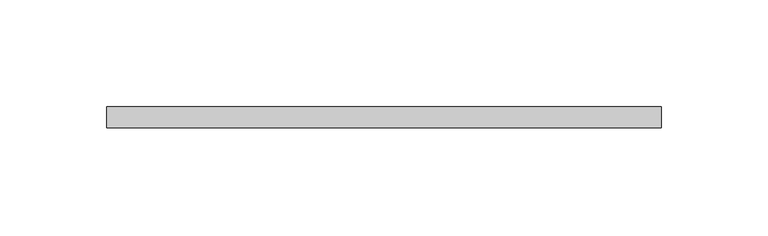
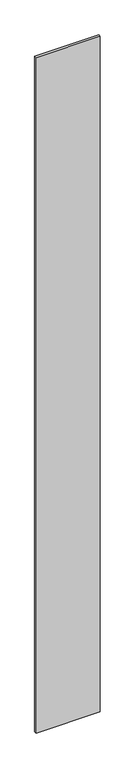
"""IFC4 building model written with IfcOpenShell, lengths in millimetres: plate geometry, システム パネル : 標準."""

from ifc_helpers import new_model, si_unit, origin, origin_with_axes, place, context, project, spatial, polyline, outline, extrude, source, transform, mapped, element, save


def plate_4066ba05(model_context):
    return source(origin(), model_context, "Body", "SweptSolid", [
        extrude(outline(polyline([(130.0, -5.0), (-130.0, -5.0), (-130.0, 5.0), (130.0, 5.0), (130.0, -5.0)])), origin_with_axes(), (0.0, 0.0, 1.0), 2895.0),
    ])


if __name__ == "__main__":
    model = new_model("IFC4")
    model_context = context("Model", 3, world=origin())
    ifc_project = project(units=[si_unit("LENGTHUNIT", "METRE", prefix="MILLI")], contexts=[model_context])
    site = spatial("IfcSite", under=ifc_project)
    building = spatial("IfcBuilding", under=site)
    placement = place(None, origin())
    plate_shape = plate_4066ba05(model_context)
    element("IfcPlate", 1, ObjectType="システム パネル : 標準", at=placement, inside=building, context=model_context, shape_type="MappedRepresentation", body=[
        mapped(plate_shape, transform((0.0, 0.0, 0.0), x_axis=(1.0, 0.0, 0.0), y_axis=(0.0, 1.0, 0.0), z_axis=(0.0, 0.0, 1.0))),
    ])
    save(model, "model.ifc")
